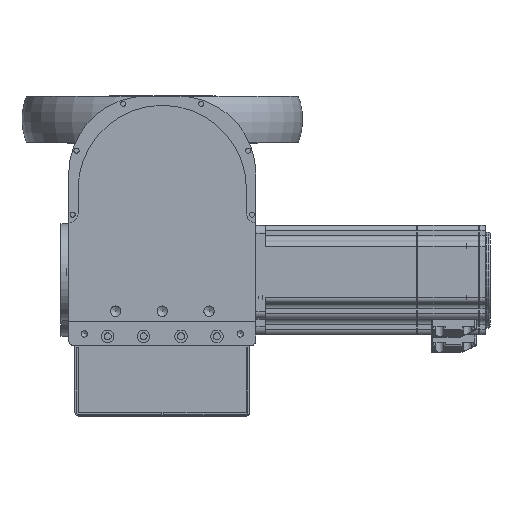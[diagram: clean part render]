
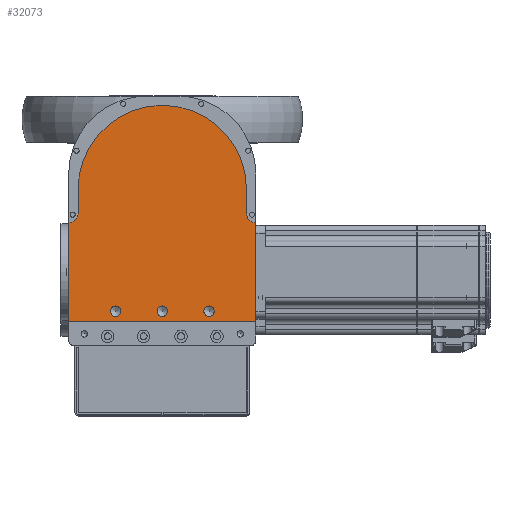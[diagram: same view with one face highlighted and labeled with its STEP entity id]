
A CAD part, top view. The second image highlights one B-rep face of the part: STEP entity #32073.
In plain terms, the highlighted planar face has unit normal (0, 0, 1).
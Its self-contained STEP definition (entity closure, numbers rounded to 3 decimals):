
#2975=LINE('',#63102,#5053);
#2980=LINE('',#63116,#5058);
#2984=LINE('',#63129,#5062);
#2989=LINE('',#63142,#5067);
#2990=LINE('',#63143,#5068);
#5053=VECTOR('',#44814,15.5);
#5058=VECTOR('',#44827,15.5);
#5062=VECTOR('',#44839,120.);
#5067=VECTOR('',#44852,63.);
#5068=VECTOR('',#44853,63.);
#5709=FACE_BOUND('',#10579,.T.);
#5710=FACE_BOUND('',#10580,.T.);
#5711=FACE_BOUND('',#10581,.T.);
#8146=FACE_OUTER_BOUND('',#10578,.T.);
#10578=EDGE_LOOP('',(#28875,#28876,#28877,#28878,#28879,#28880,#28881,#28882));
#10579=EDGE_LOOP('',(#28883));
#10580=EDGE_LOOP('',(#28884));
#10581=EDGE_LOOP('',(#28885));
#12510=CIRCLE('',#35653,54.);
#12512=CIRCLE('',#35657,6.);
#12514=CIRCLE('',#35661,6.);
#12516=CIRCLE('',#35664,3.324);
#12517=CIRCLE('',#35665,3.324);
#12518=CIRCLE('',#35666,3.324);
#15662=VERTEX_POINT('',#63100);
#15663=VERTEX_POINT('',#63101);
#15666=VERTEX_POINT('',#63109);
#15668=VERTEX_POINT('',#63115);
#15670=VERTEX_POINT('',#63121);
#15672=VERTEX_POINT('',#63127);
#15673=VERTEX_POINT('',#63128);
#15676=VERTEX_POINT('',#63136);
#15678=VERTEX_POINT('',#63144);
#15679=VERTEX_POINT('',#63146);
#15680=VERTEX_POINT('',#63148);
#20108=EDGE_CURVE('',#15662,#15663,#2975,.T.);
#20112=EDGE_CURVE('',#15666,#15662,#12510,.T.);
#20115=EDGE_CURVE('',#15668,#15666,#2980,.T.);
#20118=EDGE_CURVE('',#15670,#15668,#12512,.T.);
#20121=EDGE_CURVE('',#15672,#15673,#2984,.T.);
#20125=EDGE_CURVE('',#15663,#15676,#12514,.T.);
#20128=EDGE_CURVE('',#15673,#15670,#2989,.T.);
#20129=EDGE_CURVE('',#15676,#15672,#2990,.T.);
#20130=EDGE_CURVE('',#15678,#15678,#12516,.T.);
#20131=EDGE_CURVE('',#15679,#15679,#12517,.T.);
#20132=EDGE_CURVE('',#15680,#15680,#12518,.T.);
#28875=ORIENTED_EDGE('',*,*,#20118,.F.);
#28876=ORIENTED_EDGE('',*,*,#20128,.F.);
#28877=ORIENTED_EDGE('',*,*,#20121,.F.);
#28878=ORIENTED_EDGE('',*,*,#20129,.F.);
#28879=ORIENTED_EDGE('',*,*,#20125,.F.);
#28880=ORIENTED_EDGE('',*,*,#20108,.F.);
#28881=ORIENTED_EDGE('',*,*,#20112,.F.);
#28882=ORIENTED_EDGE('',*,*,#20115,.F.);
#28883=ORIENTED_EDGE('',*,*,#20130,.T.);
#28884=ORIENTED_EDGE('',*,*,#20131,.T.);
#28885=ORIENTED_EDGE('',*,*,#20132,.T.);
#29989=PLANE('',#35663);
#32073=ADVANCED_FACE('',(#8146,#5709,#5710,#5711),#29989,.F.);
#35653=AXIS2_PLACEMENT_3D('',#63110,#44820,#44821);
#35657=AXIS2_PLACEMENT_3D('',#63122,#44832,#44833);
#35661=AXIS2_PLACEMENT_3D('',#63137,#44845,#44846);
#35663=AXIS2_PLACEMENT_3D('',#63141,#44850,#44851);
#35664=AXIS2_PLACEMENT_3D('',#63145,#44854,#44855);
#35665=AXIS2_PLACEMENT_3D('',#63147,#44856,#44857);
#35666=AXIS2_PLACEMENT_3D('',#63149,#44858,#44859);
#44814=DIRECTION('',(0.,-1.,0.));
#44820=DIRECTION('center_axis',(0.,0.,-1.));
#44821=DIRECTION('ref_axis',(-1.,0.,0.));
#44827=DIRECTION('',(0.,1.,0.));
#44832=DIRECTION('center_axis',(0.,0.,1.));
#44833=DIRECTION('ref_axis',(0.,-1.,0.));
#44839=DIRECTION('',(-1.,0.,0.));
#44845=DIRECTION('center_axis',(0.,0.,1.));
#44846=DIRECTION('ref_axis',(-1.,0.,0.));
#44850=DIRECTION('center_axis',(0.,0.,-1.));
#44851=DIRECTION('ref_axis',(-1.,0.,0.));
#44852=DIRECTION('',(0.,1.,0.));
#44853=DIRECTION('',(0.,-1.,0.));
#44854=DIRECTION('center_axis',(0.,0.,-1.));
#44855=DIRECTION('ref_axis',(1.,0.,0.));
#44856=DIRECTION('center_axis',(0.,0.,-1.));
#44857=DIRECTION('ref_axis',(1.,0.,0.));
#44858=DIRECTION('center_axis',(0.,0.,-1.));
#44859=DIRECTION('ref_axis',(1.,0.,0.));
#63100=CARTESIAN_POINT('',(54.,0.,340.));
#63101=CARTESIAN_POINT('',(54.,-15.5,340.));
#63102=CARTESIAN_POINT('',(54.,0.,340.));
#63109=CARTESIAN_POINT('',(-54.,0.,340.));
#63110=CARTESIAN_POINT('Origin',(0.,0.,340.));
#63115=CARTESIAN_POINT('',(-54.,-15.5,340.));
#63116=CARTESIAN_POINT('',(-54.,-15.5,340.));
#63121=CARTESIAN_POINT('',(-60.,-21.5,340.));
#63122=CARTESIAN_POINT('Origin',(-60.,-15.5,340.));
#63127=CARTESIAN_POINT('',(60.,-84.5,340.));
#63128=CARTESIAN_POINT('',(-60.,-84.5,340.));
#63129=CARTESIAN_POINT('',(60.,-84.5,340.));
#63136=CARTESIAN_POINT('',(60.,-21.5,340.));
#63137=CARTESIAN_POINT('Origin',(60.,-15.5,340.));
#63141=CARTESIAN_POINT('Origin',(-70.,0.,340.));
#63142=CARTESIAN_POINT('',(-60.,-84.5,340.));
#63143=CARTESIAN_POINT('',(60.,-21.5,340.));
#63144=CARTESIAN_POINT('',(33.324,-78.,340.));
#63145=CARTESIAN_POINT('Origin',(30.,-78.,340.));
#63146=CARTESIAN_POINT('',(3.324,-78.,340.));
#63147=CARTESIAN_POINT('Origin',(0.,-78.,340.));
#63148=CARTESIAN_POINT('',(-26.677,-78.,340.));
#63149=CARTESIAN_POINT('Origin',(-30.,-78.,340.));
